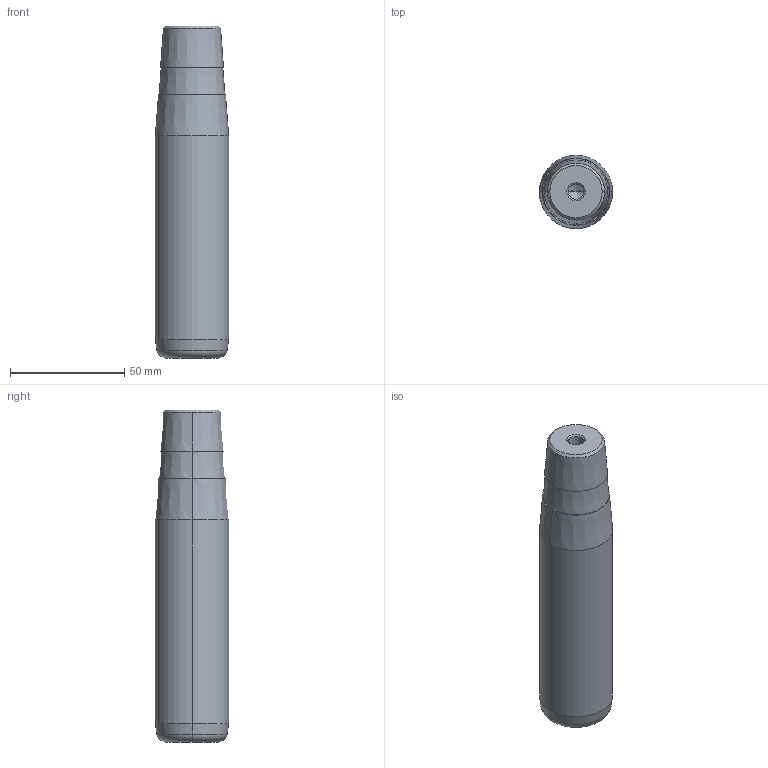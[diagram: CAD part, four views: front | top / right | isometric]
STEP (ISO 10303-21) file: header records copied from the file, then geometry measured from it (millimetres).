
FILE_DESCRIPTION(('CATIA V5 STEP Exchange'),'2;1');
FILE_NAME('C:\Users\Utente\Desktop\IO LAVORO\3D X SITO CF\X SITO\722\722-32x112x145.stp','2021-01-08T16:14:08+00:00',('none'),('none'),'CATIA Version 5 Release 20 GA (IN-10)','CATIA V5 STEP AP203','none');
FILE_SCHEMA(('CONFIG_CONTROL_DESIGN'));
Length unit declared in the file: millimetre
Products named in the file (1): 722-32x112x145
Bounding box: 32 x 32 x 145 mm (x, y, z)
Volume: 105704.9 mm3; surface area: 16151.7 mm2
Topology: 1 solids, 1 shells, 32 faces, 66 edges, 34 vertices
Faces by surface type: cone 22, cylinder 6, plane 2, torus 2
Entity records: 854 total; most frequent: CARTESIAN_POINT 175, DIRECTION 124, ORIENTED_EDGE 124, AXIS2_PLACEMENT_3D 65, EDGE_CURVE 62, EDGE_LOOP 34, VERTEX_POINT 34, ADVANCED_FACE 32
